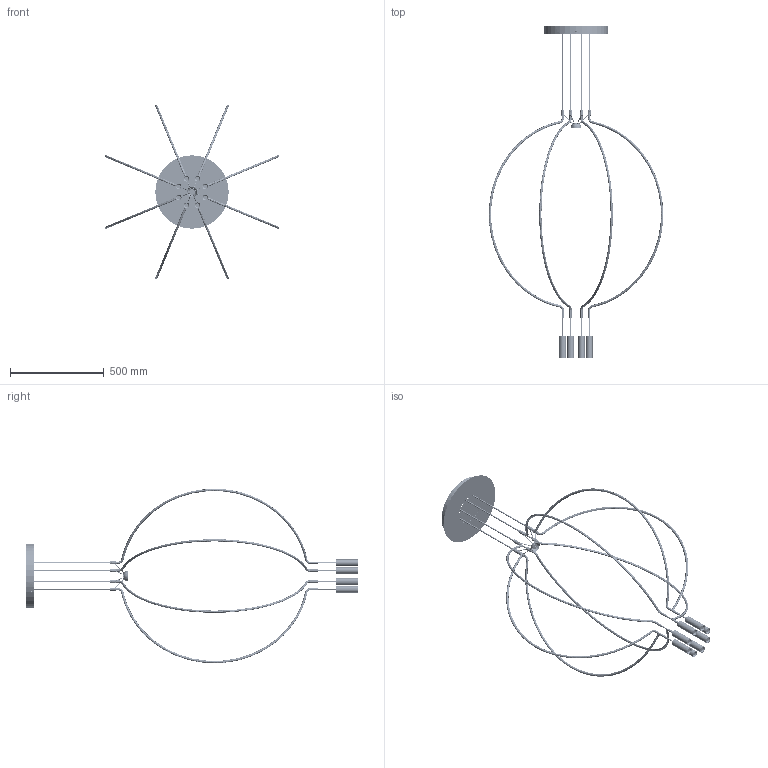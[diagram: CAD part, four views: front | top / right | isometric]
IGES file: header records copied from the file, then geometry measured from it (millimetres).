
Start section: SolidWorks IGES file using analytic representation for surfaces
Global section: file name: \\STORAGE\Tecnico Condiviso\10 NUOVI PROGETTI IN SVILUPPO\NUOVI PROGETTI AXO\AXO058 LIAISON\DRAW\3D\wetransfer-f940a2\1.0A.AXO01.LS06.A1\SPLIAIG8XXXXLED-PER 3D.IGS; native system: SolidWorks 2018; preprocessor: SolidWorks 2018; author: tecnico3; date: 180924.092810; units: millimetre
Bounding box: 929.41 x 1769.03 x 929.41 mm (x, y, z)
Surface area: 1979708.2 mm2 (no closed solid volume)
Topology: 0 solids, 0 shells, 1776 faces, 42860 edges, 42848 vertices
Faces by surface type: revolution 1086, bspline 690
